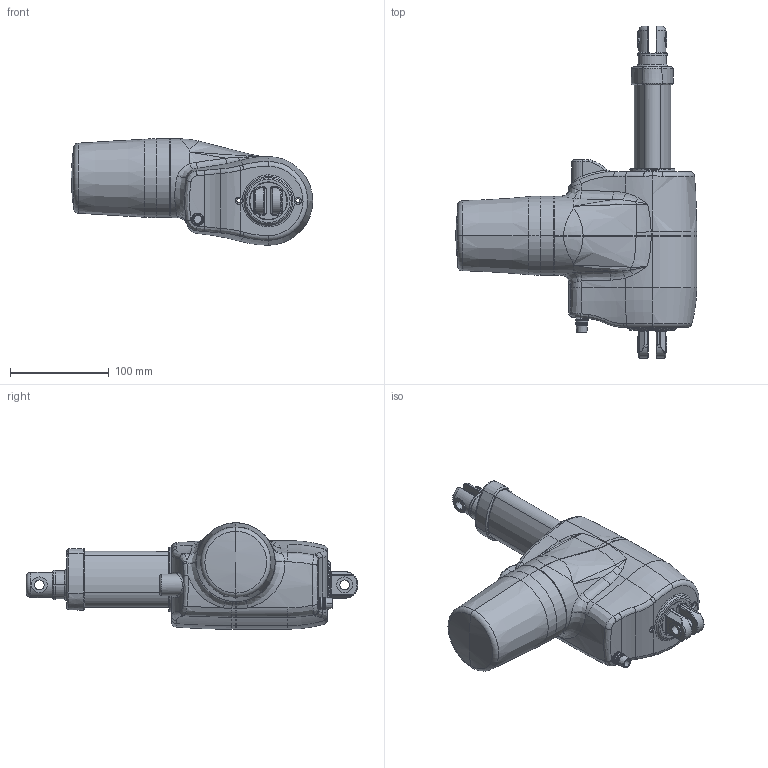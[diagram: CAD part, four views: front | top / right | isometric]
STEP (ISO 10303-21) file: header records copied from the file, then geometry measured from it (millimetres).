
FILE_DESCRIPTION((''),'2;1');
FILE_NAME('0-SHOW-310-410_ASM','2014-06-19T',('Test'),(''),'PRO/ENGINEER BY PARAMETRIC TECHNOLOGY CORPORATION, 2008400','PRO/ENGINEER BY PARAMETRIC TECHNOLOGY CORPORATION, 2008400','');
FILE_SCHEMA(('AUTOMOTIVE_DESIGN_CC2 { 1 2 10303 214 -1 1 5 2 }'));
Length unit declared in the file: millimetre
Products named in the file (3): PRT0001; PRT0002; 0-SHOW-310-410_ASM
Assembly tree (2 placements, depth 2):
  0-SHOW-310-410_ASM
    PRT0001
    PRT0002
Bounding box: 245 x 337 x 108.03 mm (x, y, z)
Surface area: 324232.4 mm2 (no closed solid volume)
Topology: 0 solids, 7 shells, 1227 faces, 3406 edges, 2160 vertices
Faces by surface type: cylinder 440, plane 289, torus 196, bspline 188, cone 96, sphere 16, extrusion 2
Entity records: 59312 total; most frequent: CARTESIAN_POINT 19515, ORIENTED_EDGE 6717, DIRECTION 6320, EDGE_CURVE 3395, PRESENTATION_STYLE_ASSIGNMENT 2992, STYLED_ITEM 2988, CURVE_STYLE 2975, AXIS2_PLACEMENT_3D 2603
